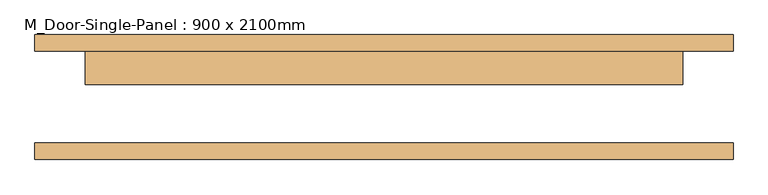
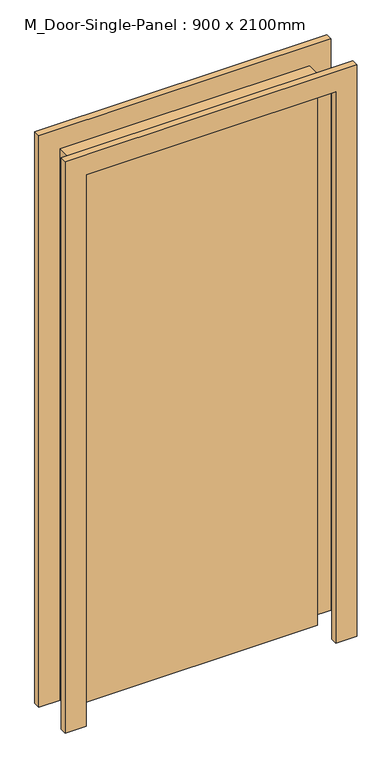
"""IFC4 building model written with IfcOpenShell, lengths in millimetres: door geometry, M_Door-Single-Panel : 900 x 2100mm."""

from ifc_helpers import new_model, si_unit, frame, origin, origin_with_axes, place, context, project, spatial, polyline, outline, extrude, source, transform, mapped, element, save


def m_door_single_panel_900_x_2100mm_8adb8cd1(model_context):
    return source(origin(), model_context, "Body", "SweptSolid", [
        extrude(outline(polyline([(450.0, 19.25), (-450.0, 19.25), (-450.0, 69.25), (450.0, 69.25), (450.0, 19.25)])), origin_with_axes(), (0.0, 0.0, 1.0), 2100.0),
        extrude(outline(polyline([(2176.2, -526.2), (0.0, -526.2), (0.0, -450.0), (2100.0, -450.0), (2100.0, 450.0), (0.0, 450.0), (0.0, 526.2), (2176.2, 526.2), (2176.2, -526.2)])), frame((0.0, 69.25, 0.0), z_axis=(0.0, 1.0, 0.0), x_axis=(0.0, 0.0, 1.0)), (0.0, 0.0, 1.0), 25.0),
        extrude(outline(polyline([(2176.2, 526.2), (2176.2, -526.2), (0.0, -526.2), (0.0, -450.0), (2100.0, -450.0), (2100.0, 450.0), (0.0, 450.0), (0.0, 526.2), (2176.2, 526.2)])), frame((0.0, -94.25, 0.0), z_axis=(0.0, 1.0, 0.0), x_axis=(0.0, 0.0, 1.0)), (0.0, 0.0, 1.0), 25.0),
    ])


if __name__ == "__main__":
    model = new_model("IFC4")
    model_context = context("Model", 3, world=origin())
    ifc_project = project(units=[si_unit("LENGTHUNIT", "METRE", prefix="MILLI")], contexts=[model_context])
    site = spatial("IfcSite", under=ifc_project)
    building = spatial("IfcBuilding", under=site)
    placement = place(None, origin())
    m_door_single_panel_900_x_2100mm_shape = m_door_single_panel_900_x_2100mm_8adb8cd1(model_context)
    element("IfcDoor", 1, ObjectType="M_Door-Single-Panel : 900 x 2100mm", at=placement, inside=building, context=model_context, shape_type="MappedRepresentation", body=[
        mapped(m_door_single_panel_900_x_2100mm_shape, transform((0.0, 0.0, 0.0), x_axis=(1.0, 0.0, 0.0), y_axis=(0.0, 1.0, 0.0), z_axis=(0.0, 0.0, 1.0))),
    ])
    save(model, "model.ifc")
